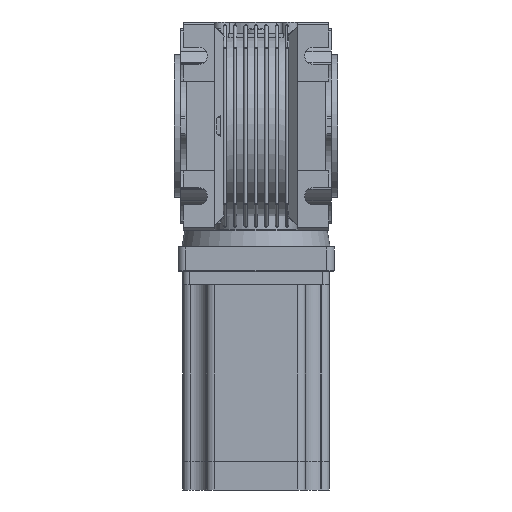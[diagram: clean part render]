
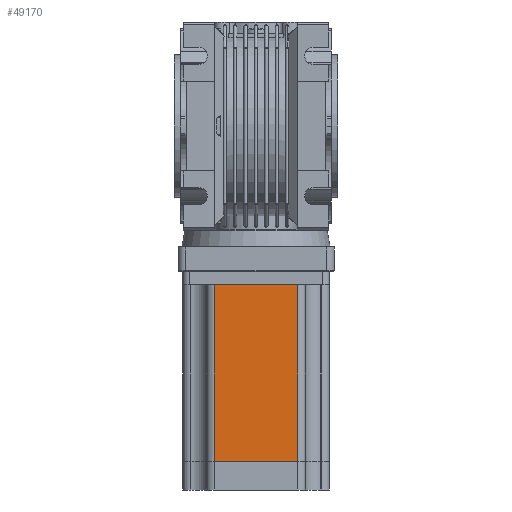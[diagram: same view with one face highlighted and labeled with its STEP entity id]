
A CAD part, front view. The second image highlights one B-rep face of the part: STEP entity #49170.
In plain terms, the highlighted planar face has unit normal (0, -1, 0).
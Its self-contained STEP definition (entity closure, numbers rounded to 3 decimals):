
#1237 = CARTESIAN_POINT ( 'NONE',  ( -16., -28.2, -5. ) ) ;
#1474 = CARTESIAN_POINT ( 'NONE',  ( 16., -28.2, -5. ) ) ;
#2874 = DIRECTION ( 'NONE',  ( 0., 0., 1. ) ) ;
#7072 = CARTESIAN_POINT ( 'NONE',  ( 16., -28.2, -5. ) ) ;
#9436 = EDGE_CURVE ( 'NONE', #79744, #56238, #34475, .T. ) ;
#11803 = VERTEX_POINT ( 'NONE', #1474 ) ;
#11964 = AXIS2_PLACEMENT_3D ( 'NONE', #28224, #76700, #76248 ) ;
#20966 = LINE ( 'NONE', #7072, #57994 ) ;
#22910 = EDGE_CURVE ( 'NONE', #79744, #30091, #36986, .T. ) ;
#24341 = CARTESIAN_POINT ( 'NONE',  ( 16., -28.2, -73. ) ) ;
#26006 = PLANE ( 'NONE',  #11964 ) ;
#28224 = CARTESIAN_POINT ( 'NONE',  ( 16., -28.2, -73. ) ) ;
#29700 = CARTESIAN_POINT ( 'NONE',  ( 16., -28.2, -73. ) ) ;
#30091 = VERTEX_POINT ( 'NONE', #1237 ) ;
#30708 = ORIENTED_EDGE ( 'NONE', *, *, #67417, .F. ) ;
#33595 = VECTOR ( 'NONE', #63210, 1000. ) ;
#34475 = LINE ( 'NONE', #69035, #33595 ) ;
#34802 = EDGE_CURVE ( 'NONE', #30091, #11803, #20966, .T. ) ;
#36986 = LINE ( 'NONE', #85884, #40728 ) ;
#38324 = VECTOR ( 'NONE', #72369, 1000. ) ;
#39742 = ORIENTED_EDGE ( 'NONE', *, *, #34802, .F. ) ;
#40728 = VECTOR ( 'NONE', #2874, 1000. ) ;
#46913 = ORIENTED_EDGE ( 'NONE', *, *, #22910, .F. ) ;
#49170 = ADVANCED_FACE ( 'NONE', ( #87514 ), #26006, .F. ) ;
#56238 = VERTEX_POINT ( 'NONE', #29700 ) ;
#57994 = VECTOR ( 'NONE', #73616, 1000. ) ;
#63210 = DIRECTION ( 'NONE',  ( 1., 0., 0. ) ) ;
#66647 = CARTESIAN_POINT ( 'NONE',  ( -16., -28.2, -73. ) ) ;
#67417 = EDGE_CURVE ( 'NONE', #11803, #56238, #86719, .T. ) ;
#69035 = CARTESIAN_POINT ( 'NONE',  ( 25., -28.2, -73. ) ) ;
#72369 = DIRECTION ( 'NONE',  ( 0., 0., -1. ) ) ;
#73520 = ORIENTED_EDGE ( 'NONE', *, *, #9436, .T. ) ;
#73616 = DIRECTION ( 'NONE',  ( 1., 0., 0. ) ) ;
#76248 = DIRECTION ( 'NONE',  ( 1., 0., 0. ) ) ;
#76700 = DIRECTION ( 'NONE',  ( 0., 1., 0. ) ) ;
#79744 = VERTEX_POINT ( 'NONE', #66647 ) ;
#85884 = CARTESIAN_POINT ( 'NONE',  ( -16., -28.2, -73. ) ) ;
#86719 = LINE ( 'NONE', #24341, #38324 ) ;
#86924 = EDGE_LOOP ( 'NONE', ( #46913, #73520, #30708, #39742 ) ) ;
#87514 = FACE_OUTER_BOUND ( 'NONE', #86924, .T. ) ;
